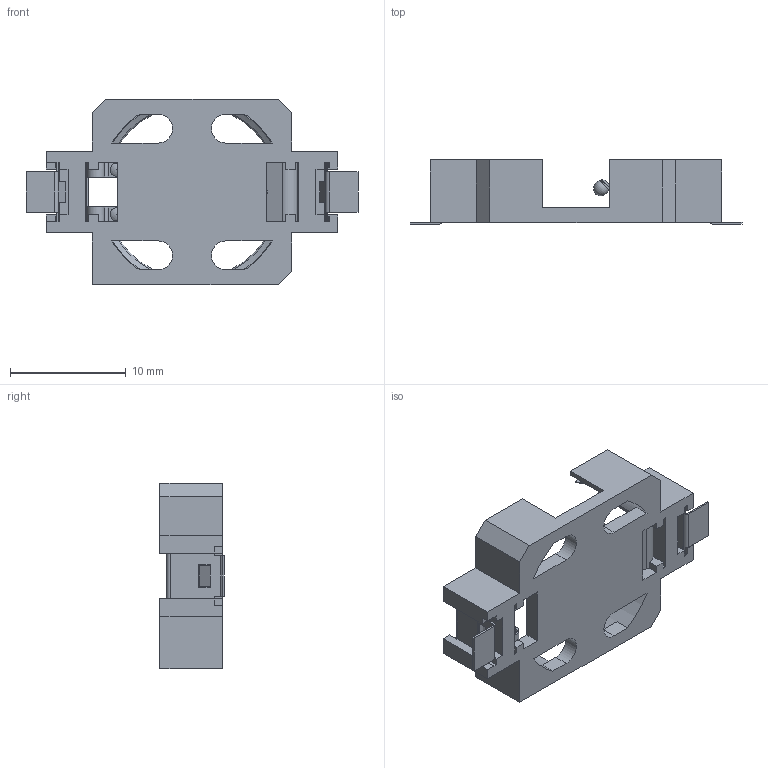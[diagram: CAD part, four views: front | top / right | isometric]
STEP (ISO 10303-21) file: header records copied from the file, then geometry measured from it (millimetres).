
FILE_DESCRIPTION (( 'STEP AP214' ), '1' );
FILE_NAME ('504.STEP', '2021-01-26T16:12:45', ( '' ), ( '' ), 'SwSTEP 2.0', 'SolidWorks 2013', '' );
FILE_SCHEMA (( 'AUTOMOTIVE_DESIGN' ));
Length unit declared in the file: inch
Products named in the file (1): 504
Bounding box: 28.68 x 5.54 x 16 mm (x, y, z)
Volume: 724.7 mm3; surface area: 1622.6 mm2
Topology: 3 solids, 3 shells, 304 faces, 922 edges, 605 vertices
Faces by surface type: plane 224, cylinder 49, torus 20, cone 11
Full cylindrical faces by diameter (mm): 1.016 x2
Entity records: 13627 total; most frequent: CARTESIAN_POINT 1962, ORIENTED_EDGE 1774, DIRECTION 1614, EDGE_CURVE 887, LINE 682, VECTOR 682, VERTEX_POINT 587, AXIS2_PLACEMENT_3D 466
